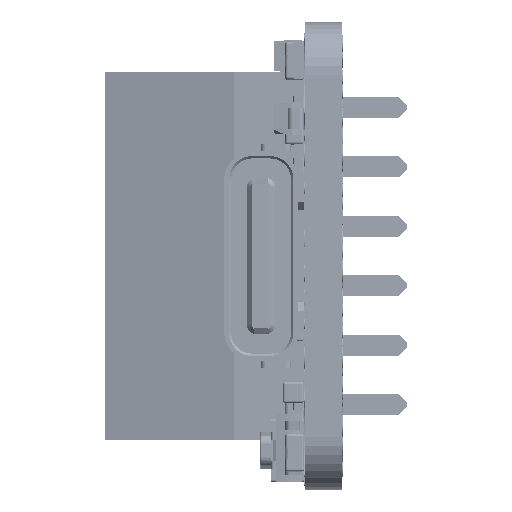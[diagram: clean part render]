
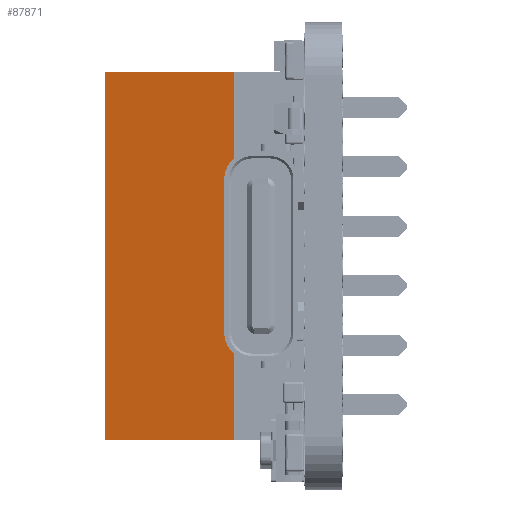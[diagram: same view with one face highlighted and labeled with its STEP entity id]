
A CAD part, left-side view. The second image highlights one B-rep face of the part: STEP entity #87871.
In plain terms, the highlighted planar face has unit normal (-0.977, 0.213, 0) as drawn and (0.977, 0.213, 0) by its records, which use the part's own axes.
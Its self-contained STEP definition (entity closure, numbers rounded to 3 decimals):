
#85169 = DIRECTION ( 'NONE',  ( -0.213, 0.977, 0. ) ) ;
#85233 = CARTESIAN_POINT ( 'NONE',  ( 3.1, 3., 7.85 ) ) ;
#85247 = DIRECTION ( 'NONE',  ( 0., 0., 1. ) ) ;
#85319 = CARTESIAN_POINT ( 'NONE',  ( 3.1, 3., 5.08 ) ) ;
#86422 = VECTOR ( 'NONE', #85169, 1000. ) ;
#86486 = LINE ( 'NONE', #85233, #86422 ) ;
#86536 = LINE ( 'NONE', #85319, #86584 ) ;
#86584 = VECTOR ( 'NONE', #85247, 1000. ) ;
#87871 = ADVANCED_FACE ( 'NONE', ( #290269 ), #302108, .T. ) ;
#96551 = EDGE_CURVE ( 'NONE', #99320, #99402, #86486, .T. ) ;
#96603 = EDGE_CURVE ( 'NONE', #99315, #99320, #86536, .T. ) ;
#99008 = EDGE_CURVE ( 'NONE', #99412, #99402, #112474, .T. ) ;
#99021 = EDGE_CURVE ( 'NONE', #99412, #99315, #112488, .T. ) ;
#99315 = VERTEX_POINT ( 'NONE', #114019 ) ;
#99320 = VERTEX_POINT ( 'NONE', #114007 ) ;
#99402 = VERTEX_POINT ( 'NONE', #114127 ) ;
#99412 = VERTEX_POINT ( 'NONE', #114090 ) ;
#107121 = ORIENTED_EDGE ( 'NONE', *, *, #96603, .F. ) ;
#107166 = ORIENTED_EDGE ( 'NONE', *, *, #99008, .T. ) ;
#107182 = ORIENTED_EDGE ( 'NONE', *, *, #96551, .F. ) ;
#107224 = ORIENTED_EDGE ( 'NONE', *, *, #99021, .F. ) ;
#110879 = EDGE_LOOP ( 'NONE', ( #107166, #107182, #107121, #107224 ) ) ;
#112474 = LINE ( 'NONE', #113728, #112489 ) ;
#112488 = LINE ( 'NONE', #113824, #112497 ) ;
#112489 = VECTOR ( 'NONE', #113741, 1000. ) ;
#112497 = VECTOR ( 'NONE', #113830, 1000. ) ;
#113728 = CARTESIAN_POINT ( 'NONE',  ( 1.9, 8.5, 5.08 ) ) ;
#113741 = DIRECTION ( 'NONE',  ( 0., 0., 1. ) ) ;
#113824 = CARTESIAN_POINT ( 'NONE',  ( 1.9, 8.5, -7.85 ) ) ;
#113830 = DIRECTION ( 'NONE',  ( 0.213, -0.977, 0. ) ) ;
#114007 = CARTESIAN_POINT ( 'NONE',  ( 3.1, 3., 7.85 ) ) ;
#114019 = CARTESIAN_POINT ( 'NONE',  ( 3.1, 3., -7.85 ) ) ;
#114090 = CARTESIAN_POINT ( 'NONE',  ( 1.9, 8.5, -7.85 ) ) ;
#114127 = CARTESIAN_POINT ( 'NONE',  ( 1.9, 8.5, 7.85 ) ) ;
#177581 = AXIS2_PLACEMENT_3D ( 'NONE', #302060, #302111, #302049 ) ;
#290269 = FACE_OUTER_BOUND ( 'NONE', #110879, .T. ) ;
#302049 = DIRECTION ( 'NONE',  ( -0.213, 0.977, 0. ) ) ;
#302060 = CARTESIAN_POINT ( 'NONE',  ( 3.1, 3., 5.08 ) ) ;
#302108 = PLANE ( 'NONE',  #177581 ) ;
#302111 = DIRECTION ( 'NONE',  ( 0.977, 0.213, 0. ) ) ;
